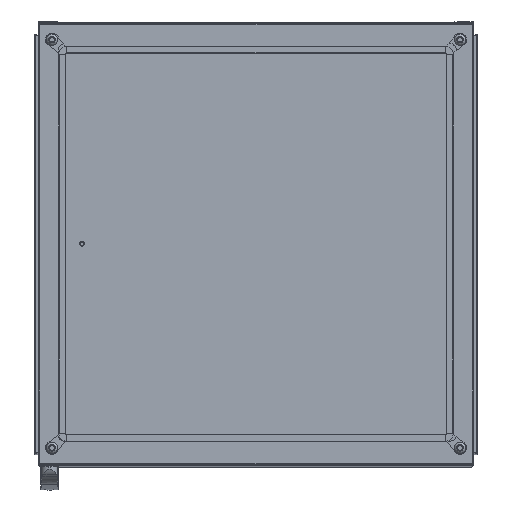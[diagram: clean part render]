
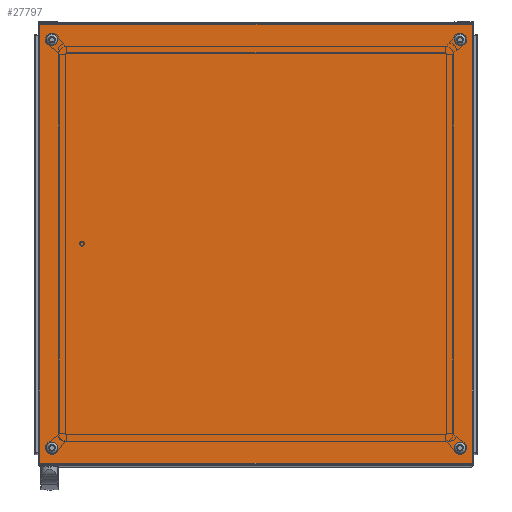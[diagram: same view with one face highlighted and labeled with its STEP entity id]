
A CAD part, top view. The second image highlights one B-rep face of the part: STEP entity #27797.
In plain terms, the highlighted planar face has unit normal (0, 0, 1).
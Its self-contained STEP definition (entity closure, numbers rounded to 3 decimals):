
#1371=CIRCLE('',#29840,6.);
#1372=CIRCLE('',#29841,6.);
#1373=CIRCLE('',#29842,6.);
#1374=CIRCLE('',#29843,6.);
#5183=ORIENTED_EDGE('',*,*,#11817,.F.);
#5184=ORIENTED_EDGE('',*,*,#11818,.F.);
#5185=ORIENTED_EDGE('',*,*,#11819,.F.);
#5186=ORIENTED_EDGE('',*,*,#11820,.F.);
#5187=ORIENTED_EDGE('',*,*,#11806,.T.);
#5188=ORIENTED_EDGE('',*,*,#11814,.T.);
#5189=ORIENTED_EDGE('',*,*,#11777,.F.);
#5190=ORIENTED_EDGE('',*,*,#11821,.F.);
#11777=EDGE_CURVE('',#15329,#15330,#18105,.T.);
#11806=EDGE_CURVE('',#15351,#15350,#18111,.T.);
#11814=EDGE_CURVE('',#15350,#15330,#18116,.T.);
#11817=EDGE_CURVE('',#15352,#15352,#1371,.T.);
#11818=EDGE_CURVE('',#15353,#15353,#1372,.T.);
#11819=EDGE_CURVE('',#15354,#15354,#1373,.T.);
#11820=EDGE_CURVE('',#15355,#15355,#1374,.T.);
#11821=EDGE_CURVE('',#15351,#15329,#18119,.T.);
#15329=VERTEX_POINT('',#43341);
#15330=VERTEX_POINT('',#43343);
#15350=VERTEX_POINT('',#43417);
#15351=VERTEX_POINT('',#43419);
#15352=VERTEX_POINT('',#43436);
#15353=VERTEX_POINT('',#43438);
#15354=VERTEX_POINT('',#43440);
#15355=VERTEX_POINT('',#43442);
#18105=LINE('',#43342,#20514);
#18111=LINE('',#43418,#20520);
#18116=LINE('',#43430,#20525);
#18119=LINE('',#43443,#20528);
#20514=VECTOR('',#34724,1000.);
#20520=VECTOR('',#34778,1000.);
#20525=VECTOR('',#34795,1000.);
#20528=VECTOR('',#34810,1000.);
#22621=EDGE_LOOP('',(#5183));
#22622=EDGE_LOOP('',(#5184));
#22623=EDGE_LOOP('',(#5185));
#22624=EDGE_LOOP('',(#5186));
#22625=EDGE_LOOP('',(#5187,#5188,#5189,#5190));
#24916=FACE_BOUND('',#22621,.T.);
#24917=FACE_BOUND('',#22622,.T.);
#24918=FACE_BOUND('',#22623,.T.);
#24919=FACE_BOUND('',#22624,.T.);
#24920=FACE_BOUND('',#22625,.T.);
#26868=PLANE('',#29839);
#27797=ADVANCED_FACE('',(#24916,#24917,#24918,#24919,#24920),#26868,.T.);
#29839=AXIS2_PLACEMENT_3D('',#43434,#34800,#34801);
#29840=AXIS2_PLACEMENT_3D('',#43435,#34802,#34803);
#29841=AXIS2_PLACEMENT_3D('',#43437,#34804,#34805);
#29842=AXIS2_PLACEMENT_3D('',#43439,#34806,#34807);
#29843=AXIS2_PLACEMENT_3D('',#43441,#34808,#34809);
#34724=DIRECTION('',(-1.,0.,0.));
#34778=DIRECTION('',(-1.,0.,0.));
#34795=DIRECTION('',(0.,-1.,0.));
#34800=DIRECTION('',(0.,0.,1.));
#34801=DIRECTION('',(1.,0.,0.));
#34802=DIRECTION('',(0.,0.,1.));
#34803=DIRECTION('',(1.,0.,0.));
#34804=DIRECTION('',(0.,0.,1.));
#34805=DIRECTION('',(1.,0.,0.));
#34806=DIRECTION('',(0.,0.,1.));
#34807=DIRECTION('',(1.,0.,0.));
#34808=DIRECTION('',(0.,0.,1.));
#34809=DIRECTION('',(1.,0.,0.));
#34810=DIRECTION('',(0.,-1.,0.));
#43341=CARTESIAN_POINT('',(396.5,-402.5,20.));
#43342=CARTESIAN_POINT('',(400.,-402.5,20.));
#43343=CARTESIAN_POINT('',(-396.5,-402.5,20.));
#43417=CARTESIAN_POINT('',(-396.5,402.5,20.));
#43418=CARTESIAN_POINT('',(400.,402.5,20.));
#43419=CARTESIAN_POINT('',(396.5,402.5,20.));
#43430=CARTESIAN_POINT('',(-396.5,405.5,20.));
#43434=CARTESIAN_POINT('',(-396.5,-402.5,20.));
#43435=CARTESIAN_POINT('',(374.5,-374.5,20.));
#43436=CARTESIAN_POINT('',(380.5,-374.5,20.));
#43437=CARTESIAN_POINT('',(-374.5,374.5,20.));
#43438=CARTESIAN_POINT('',(-368.5,374.5,20.));
#43439=CARTESIAN_POINT('',(374.5,374.5,20.));
#43440=CARTESIAN_POINT('',(380.5,374.5,20.));
#43441=CARTESIAN_POINT('',(-374.5,-374.5,20.));
#43442=CARTESIAN_POINT('',(-368.5,-374.5,20.));
#43443=CARTESIAN_POINT('',(396.5,405.5,20.));
